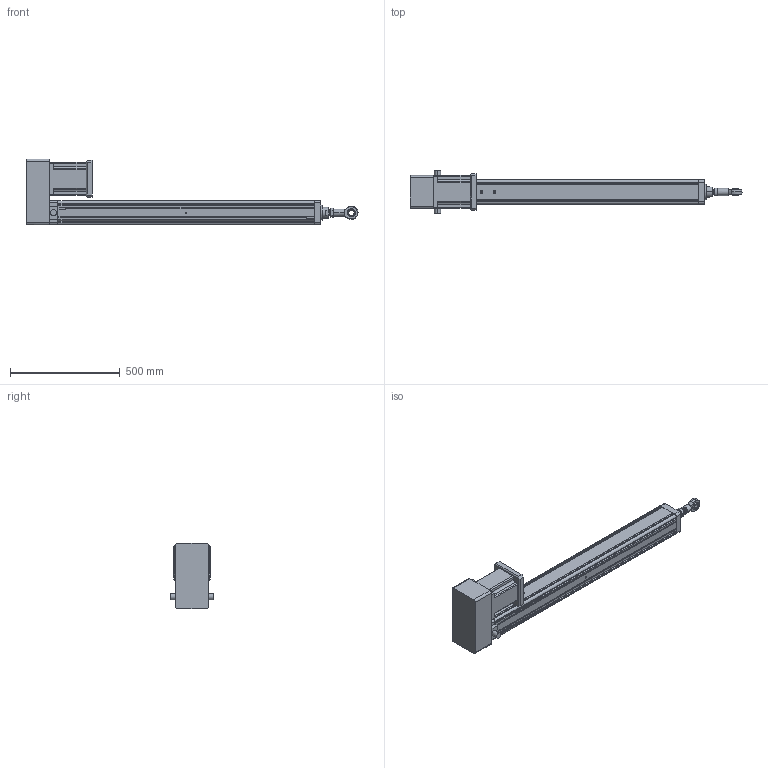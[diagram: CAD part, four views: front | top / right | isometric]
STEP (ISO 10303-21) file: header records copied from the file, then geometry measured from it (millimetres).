
FILE_DESCRIPTION (( 'STEP AP203' ), '1' );
FILE_NAME ('YRJ110-L1000-H4K3.STEP', '2020-01-06T01:24:48', ( 'User' ), ( 'China' ), 'SwSTEP 2.0', 'SolidWorks 2016', '' );
FILE_SCHEMA (( 'CONFIG_CONTROL_DESIGN' ));
Length unit declared in the file: millimetre
Products named in the file (11): _BNC01-SI25T_K-R-002; BNC01-SI25T_K-R; 095-100俴最倰第; K3-110; 142熬厒儂; YRJ110-L1000-H4K3; H5-110-1; H5-110-2; 萇儂碟-110; K1-110; _BNC01-SI25T_K-R-001
Assembly tree (10 placements, depth 4):
  YRJ110-L1000-H4K3
    095-100俴最倰第
    142熬厒儂
    H5-110-1
    H5-110-2
    萇儂碟-110
    K3-110
      K1-110
      BNC01-SI25T_K-R
        _BNC01-SI25T_K-R-001
        _BNC01-SI25T_K-R-002
Bounding box: 1515 x 200 x 300.5 mm (x, y, z)
Volume: 14708164.3 mm3; surface area: 1527037.1 mm2
Topology: 8 solids, 8 shells, 401 faces, 1101 edges, 709 vertices
Faces by surface type: plane 187, cylinder 166, cone 34, bspline 14
Entity records: 22833 total; most frequent: CARTESIAN_POINT 11715, ORIENTED_EDGE 2146, DIRECTION 2000, EDGE_CURVE 1073, VERTEX_POINT 709, AXIS2_PLACEMENT_3D 674, VECTOR 652, LINE 652
